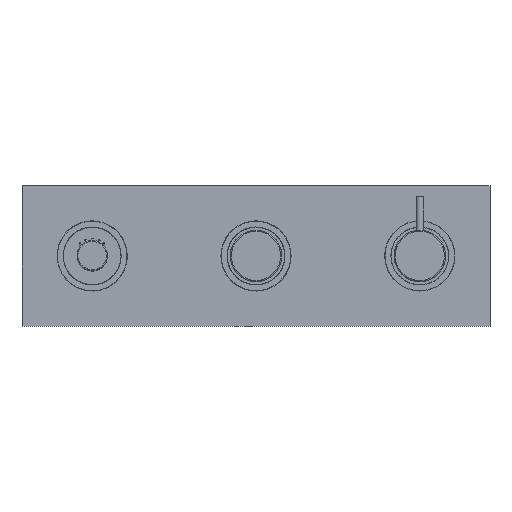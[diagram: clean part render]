
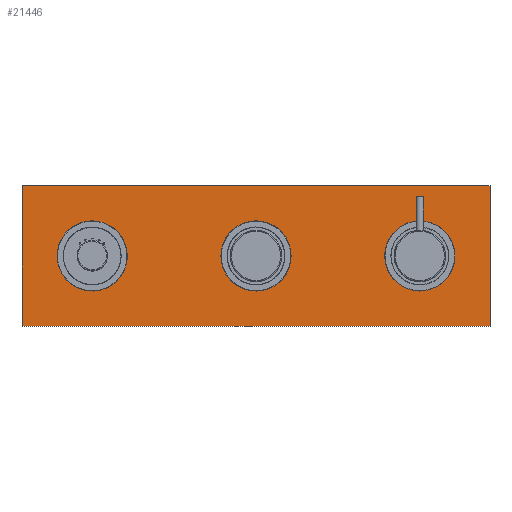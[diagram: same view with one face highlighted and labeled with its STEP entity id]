
A CAD part, top view. The second image highlights one B-rep face of the part: STEP entity #21446.
In plain terms, the highlighted planar face has unit normal (0, 0, 1).
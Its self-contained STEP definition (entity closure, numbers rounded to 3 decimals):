
#303 = FACE_BOUND ( 'NONE', #12702, .T. ) ;
#576 = VECTOR ( 'NONE', #3376, 1000. ) ;
#622 = PLANE ( 'NONE',  #759 ) ;
#759 = AXIS2_PLACEMENT_3D ( 'NONE', #15188, #15022, #20056 ) ;
#837 = CARTESIAN_POINT ( 'NONE',  ( -70., 0., 30. ) ) ;
#1150 = VERTEX_POINT ( 'NONE', #1259 ) ;
#1259 = CARTESIAN_POINT ( 'NONE',  ( 233., 0., 30. ) ) ;
#1264 = CARTESIAN_POINT ( 'NONE',  ( -130., 72.87, 30. ) ) ;
#1348 = DIRECTION ( 'NONE',  ( 0., 0., 1. ) ) ;
#1464 = VECTOR ( 'NONE', #2360, 1000. ) ;
#1891 = VERTEX_POINT ( 'NONE', #9774 ) ;
#1997 = EDGE_CURVE ( 'NONE', #9382, #18172, #12583, .T. ) ;
#2330 = VECTOR ( 'NONE', #11167, 1000. ) ;
#2345 = AXIS2_PLACEMENT_3D ( 'NONE', #21341, #28256, #3495 ) ;
#2360 = DIRECTION ( 'NONE',  ( -1., 0., 0. ) ) ;
#2882 = FACE_OUTER_BOUND ( 'NONE', #18999, .T. ) ;
#2907 = CARTESIAN_POINT ( 'NONE',  ( -130., 60., 30. ) ) ;
#2995 = CIRCLE ( 'NONE', #14383, 23. ) ;
#3376 = DIRECTION ( 'NONE',  ( 0., 1., 0. ) ) ;
#3495 = DIRECTION ( 'NONE',  ( 1., 0., 0. ) ) ;
#4261 = EDGE_CURVE ( 'NONE', #1891, #15105, #8151, .T. ) ;
#4400 = DIRECTION ( 'NONE',  ( 1., 0., 0. ) ) ;
#4913 = ORIENTED_EDGE ( 'NONE', *, *, #19138, .T. ) ;
#5269 = ORIENTED_EDGE ( 'NONE', *, *, #19511, .F. ) ;
#5939 = CARTESIAN_POINT ( 'NONE',  ( 270., -60., 30. ) ) ;
#6142 = ORIENTED_EDGE ( 'NONE', *, *, #31383, .F. ) ;
#7255 = CARTESIAN_POINT ( 'NONE',  ( 270., -60., 30. ) ) ;
#7273 = EDGE_CURVE ( 'NONE', #1150, #22886, #2995, .T. ) ;
#8151 = LINE ( 'NONE', #7255, #20441 ) ;
#8469 = CARTESIAN_POINT ( 'NONE',  ( -70., 0., 30. ) ) ;
#8612 = DIRECTION ( 'NONE',  ( 1., 0., 0. ) ) ;
#8625 = EDGE_CURVE ( 'NONE', #29610, #13581, #22746, .T. ) ;
#9382 = VERTEX_POINT ( 'NONE', #22558 ) ;
#9774 = CARTESIAN_POINT ( 'NONE',  ( -130., -60., 30. ) ) ;
#10187 = FACE_BOUND ( 'NONE', #19617, .T. ) ;
#11109 = VERTEX_POINT ( 'NONE', #2907 ) ;
#11167 = DIRECTION ( 'NONE',  ( 0., 1., 0. ) ) ;
#11661 = ORIENTED_EDGE ( 'NONE', *, *, #23212, .F. ) ;
#11901 = DIRECTION ( 'NONE',  ( 0., 0., 1. ) ) ;
#12340 = ORIENTED_EDGE ( 'NONE', *, *, #4261, .T. ) ;
#12583 = CIRCLE ( 'NONE', #21373, 15. ) ;
#12702 = EDGE_LOOP ( 'NONE', ( #15333, #17595 ) ) ;
#13401 = EDGE_CURVE ( 'NONE', #13581, #29610, #26093, .T. ) ;
#13581 = VERTEX_POINT ( 'NONE', #27847 ) ;
#13613 = LINE ( 'NONE', #30585, #576 ) ;
#13720 = DIRECTION ( 'NONE',  ( 1., 0., 0. ) ) ;
#13834 = EDGE_LOOP ( 'NONE', ( #31524, #11661 ) ) ;
#14383 = AXIS2_PLACEMENT_3D ( 'NONE', #24183, #11901, #4400 ) ;
#14749 = CIRCLE ( 'NONE', #2345, 23. ) ;
#15022 = DIRECTION ( 'NONE',  ( 0., 0., 1. ) ) ;
#15105 = VERTEX_POINT ( 'NONE', #5939 ) ;
#15188 = CARTESIAN_POINT ( 'NONE',  ( -270., 60., 30. ) ) ;
#15333 = ORIENTED_EDGE ( 'NONE', *, *, #13401, .F. ) ;
#15358 = CARTESIAN_POINT ( 'NONE',  ( 70., 0., 30. ) ) ;
#16112 = AXIS2_PLACEMENT_3D ( 'NONE', #837, #20932, #8612 ) ;
#17141 = CARTESIAN_POINT ( 'NONE',  ( -55., 0., 30. ) ) ;
#17274 = ORIENTED_EDGE ( 'NONE', *, *, #1997, .F. ) ;
#17595 = ORIENTED_EDGE ( 'NONE', *, *, #8625, .F. ) ;
#17998 = VERTEX_POINT ( 'NONE', #18982 ) ;
#18172 = VERTEX_POINT ( 'NONE', #17141 ) ;
#18875 = AXIS2_PLACEMENT_3D ( 'NONE', #20993, #18889, #13720 ) ;
#18889 = DIRECTION ( 'NONE',  ( 0., 0., 1. ) ) ;
#18982 = CARTESIAN_POINT ( 'NONE',  ( 270., 60., 30. ) ) ;
#18999 = EDGE_LOOP ( 'NONE', ( #6142, #12340, #4913, #26381 ) ) ;
#19138 = EDGE_CURVE ( 'NONE', #15105, #17998, #13613, .T. ) ;
#19511 = EDGE_CURVE ( 'NONE', #18172, #9382, #30060, .T. ) ;
#19617 = EDGE_LOOP ( 'NONE', ( #5269, #17274 ) ) ;
#19628 = AXIS2_PLACEMENT_3D ( 'NONE', #15358, #27820, #25409 ) ;
#19670 = CARTESIAN_POINT ( 'NONE',  ( 47., 0., 30. ) ) ;
#20056 = DIRECTION ( 'NONE',  ( 1., 0., 0. ) ) ;
#20441 = VECTOR ( 'NONE', #26991, 1000. ) ;
#20932 = DIRECTION ( 'NONE',  ( 0., 0., 1. ) ) ;
#20993 = CARTESIAN_POINT ( 'NONE',  ( 70., 0., 30. ) ) ;
#21341 = CARTESIAN_POINT ( 'NONE',  ( 210., 0., 30. ) ) ;
#21373 = AXIS2_PLACEMENT_3D ( 'NONE', #8469, #1348, #23054 ) ;
#21446 = ADVANCED_FACE ( 'NONE', ( #2882, #27806, #303, #10187 ), #622, .T. ) ;
#22558 = CARTESIAN_POINT ( 'NONE',  ( -85., 0., 30. ) ) ;
#22611 = LINE ( 'NONE', #30198, #1464 ) ;
#22746 = CIRCLE ( 'NONE', #19628, 23. ) ;
#22886 = VERTEX_POINT ( 'NONE', #31430 ) ;
#23054 = DIRECTION ( 'NONE',  ( 1., 0., 0. ) ) ;
#23212 = EDGE_CURVE ( 'NONE', #22886, #1150, #14749, .T. ) ;
#24183 = CARTESIAN_POINT ( 'NONE',  ( 210., 0., 30. ) ) ;
#25409 = DIRECTION ( 'NONE',  ( 1., 0., 0. ) ) ;
#25546 = LINE ( 'NONE', #1264, #2330 ) ;
#26093 = CIRCLE ( 'NONE', #18875, 23. ) ;
#26381 = ORIENTED_EDGE ( 'NONE', *, *, #26965, .T. ) ;
#26965 = EDGE_CURVE ( 'NONE', #17998, #11109, #22611, .T. ) ;
#26991 = DIRECTION ( 'NONE',  ( 1., 0., 0. ) ) ;
#27806 = FACE_BOUND ( 'NONE', #13834, .T. ) ;
#27820 = DIRECTION ( 'NONE',  ( 0., 0., 1. ) ) ;
#27847 = CARTESIAN_POINT ( 'NONE',  ( 93., 0., 30. ) ) ;
#28256 = DIRECTION ( 'NONE',  ( 0., 0., 1. ) ) ;
#29610 = VERTEX_POINT ( 'NONE', #19670 ) ;
#30060 = CIRCLE ( 'NONE', #16112, 15. ) ;
#30198 = CARTESIAN_POINT ( 'NONE',  ( 270., 60., 30. ) ) ;
#30585 = CARTESIAN_POINT ( 'NONE',  ( 270., -60., 30. ) ) ;
#31383 = EDGE_CURVE ( 'NONE', #1891, #11109, #25546, .T. ) ;
#31430 = CARTESIAN_POINT ( 'NONE',  ( 187., 0., 30. ) ) ;
#31524 = ORIENTED_EDGE ( 'NONE', *, *, #7273, .F. ) ;
